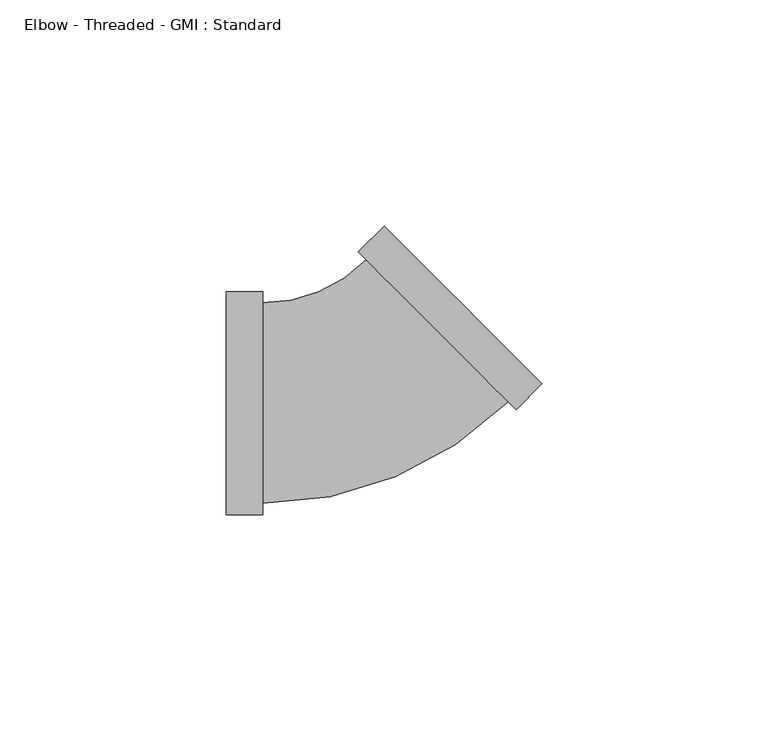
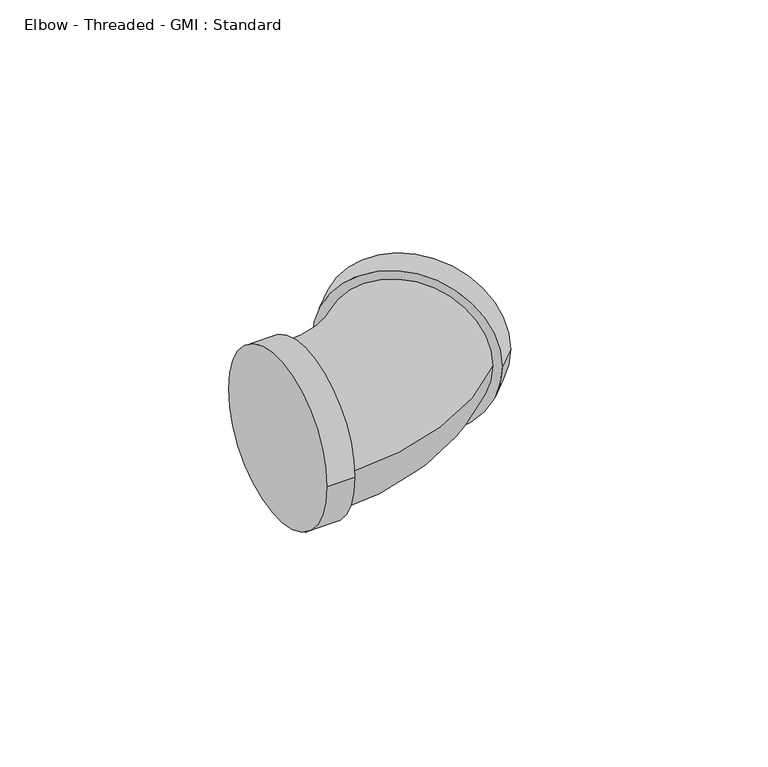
"""IFC4 building model written with IfcOpenShell, lengths in millimetres: pipe fitting geometry, Elbow - Threaded - GMI : Standard."""

import ifcopenshell
import ifcopenshell.guid

model = None  # the IFC model being written
_history = None  # IfcOwnerHistory: only IFC2X3 demands one
_inside = {}  # id of a spatial element -> (the spatial element, [elements in it])
_under = {}  # id of a project, library or spatial element -> (it, [spatial elements below it])
_declared = {}  # id of a project -> (the project, [libraries it declares])
_typed = {}  # id of a type object -> (the type object, [elements of that type])
_made_of = {}  # id of a material, layer set ... -> (it, [elements and type objects made of it])


def new_model(schema):
    """Start an empty IFC model of exactly this schema.

    Asked for "IFC4X3", IfcOpenShell would pick the latest addendum, in which some entities
    have other attributes; the version numbers below select the first issue.
    IFC2X3 requires an IfcOwnerHistory on every rooted entity: one is made here for all.
    """
    global model, _history
    if schema == "IFC4X3":
        model = ifcopenshell.file(schema_version=(4, 3, 0, 0))
    else:
        model = ifcopenshell.file(schema=schema)
    _inside.clear()
    _under.clear()
    _declared.clear()
    _typed.clear()
    _made_of.clear()
    _history = None
    if model.schema == "IFC2X3":
        org = make("IfcOrganization", Name="unknown")
        user = make(
            "IfcPersonAndOrganization",
            ThePerson=make("IfcPerson", FamilyName="unknown"),
            TheOrganization=org,
        )
        app = make(
            "IfcApplication",
            ApplicationDeveloper=org,
            Version="unknown",
            ApplicationFullName="unknown",
            ApplicationIdentifier="unknown",
        )
        _history = make(
            "IfcOwnerHistory",
            OwningUser=user,
            OwningApplication=app,
            ChangeAction="ADDED",
            CreationDate=0,
        )
    return model


def make(cls, **values):
    """One entity of the class cls with the attributes given. An attribute that is None is left unset."""
    return model.create_entity(
        cls, **{name: value for name, value in values.items() if value is not None}
    )


def rooted(cls, **values):
    """An entity with a GlobalId (a new one), such as an element, a storey or a relation."""
    return make(cls, GlobalId=ifcopenshell.guid.new(), OwnerHistory=_history, **values)


def si_unit(unit_type, name, prefix=None):
    """IfcSIUnit, for example si_unit("LENGTHUNIT", "METRE", prefix="MILLI")."""
    return make("IfcSIUnit", UnitType=unit_type, Prefix=prefix, Name=name)


def assignment(units):
    """IfcUnitAssignment: the units of a project."""
    return None if units is None else make("IfcUnitAssignment", Units=units)


def point(xyz):
    """IfcCartesianPoint."""
    return None if xyz is None else make("IfcCartesianPoint", Coordinates=xyz)


def direction(xyz):
    """IfcDirection."""
    return None if xyz is None else make("IfcDirection", DirectionRatios=xyz)


def frame(location, z_axis=None, x_axis=None):
    """IfcAxis2Placement3D, a coordinate frame: its origin and axes. An axis left out is left unset."""
    return make(
        "IfcAxis2Placement3D",
        Location=point(location),
        Axis=direction(z_axis),
        RefDirection=direction(x_axis),
    )


def origin():
    """The frame at (0, 0, 0) with its axes left unset."""
    return frame((0.0, 0.0, 0.0))


def place(relative_to, where):
    """IfcLocalPlacement: puts the frame where relative to a parent placement (None: the world)."""
    return make(
        "IfcLocalPlacement", PlacementRelTo=relative_to, RelativePlacement=where
    )


def context(
    kind, dimensions, precision=None, world=None, true_north=None, identifier=None
):
    """IfcGeometricRepresentationContext, for example the 3D "Model" context."""
    return make(
        "IfcGeometricRepresentationContext",
        ContextIdentifier=identifier,
        ContextType=kind,
        CoordinateSpaceDimension=dimensions,
        Precision=precision,
        WorldCoordinateSystem=world,
        TrueNorth=true_north,
    )


def project(units=None, contexts=None):
    """IfcProject with its units and contexts."""
    return rooted(
        "IfcProject",
        Name="project",
        RepresentationContexts=contexts,
        UnitsInContext=assignment(units),
    )


def spatial(cls, under=None, at=None, **own):
    """A site, building, storey or space (cls), placed at a placement, below another one or the project."""
    s = rooted(cls, ObjectPlacement=at, **own)
    if under is not None:
        _under.setdefault(under.id(), (under, []))[1].append(s)
    return s


def circle_curve(where, radius):
    """IfcCircle in the frame where."""
    return make("IfcCircle", Position=where, Radius=radius)


def ellipse_curve(where, semi_axis1, semi_axis2):
    """IfcEllipse in the frame where."""
    return make(
        "IfcEllipse", Position=where, SemiAxis1=semi_axis1, SemiAxis2=semi_axis2
    )


def trimmed(basis, trim1, trim2, sense, master):
    """IfcTrimmedCurve: the piece of a basis curve between two trims."""
    return make(
        "IfcTrimmedCurve",
        BasisCurve=basis,
        Trim1=trim1,
        Trim2=trim2,
        SenseAgreement=sense,
        MasterRepresentation=master,
    )


def shape(context_of_items, identifier, shape_type, items):
    """IfcShapeRepresentation: the items that make up one representation, for example the "Body"."""
    return make(
        "IfcShapeRepresentation",
        ContextOfItems=context_of_items,
        RepresentationIdentifier=identifier,
        RepresentationType=shape_type,
        Items=items,
    )


def source(mapping_origin, context_of_items, identifier, shape_type, items):
    """IfcRepresentationMap: a shape defined once, which mapped items show again and again."""
    return make(
        "IfcRepresentationMap",
        MappingOrigin=mapping_origin,
        MappedRepresentation=shape(context_of_items, identifier, shape_type, items),
    )


def transform(
    local_origin,
    x_axis=None,
    y_axis=None,
    z_axis=None,
    scale=None,
    scale2=None,
    scale3=None,
    uniform=True,
):
    """IfcCartesianTransformationOperator3D, or its non-uniform kind. x_axis, y_axis, z_axis: its Axis1, 2, 3."""
    if uniform:
        return make(
            "IfcCartesianTransformationOperator3D",
            Axis1=direction(x_axis),
            Axis2=direction(y_axis),
            LocalOrigin=point(local_origin),
            Scale=scale,
            Axis3=direction(z_axis),
        )
    return make(
        "IfcCartesianTransformationOperator3DnonUniform",
        Axis1=direction(x_axis),
        Axis2=direction(y_axis),
        LocalOrigin=point(local_origin),
        Scale=scale,
        Axis3=direction(z_axis),
        Scale2=scale2,
        Scale3=scale3,
    )


def mapped(mapping_source, mapping_target):
    """IfcMappedItem: shows the shape of a source again, moved by a transform."""
    return make(
        "IfcMappedItem", MappingSource=mapping_source, MappingTarget=mapping_target
    )


def made_of(thing, what):
    """Note that an element or type object is made of a material, layer set ...; save() writes the relation."""
    if what is not None:
        _made_of.setdefault(what.id(), (what, []))[1].append(thing)
    return thing


def element(
    cls,
    number,
    at=None,
    inside=None,
    cuts=None,
    type_object=None,
    material=None,
    context=None,
    identifier="Body",
    shape_type=None,
    held_by="IfcProductDefinitionShape",
    body=None,
    shapes=None,
    **own,
):
    """One element of the class cls, such as IfcWall. Its Tag is "e" and its number.

    at: its placement. inside: the storey or other place that contains it. cuts: it is an
    opening in that element (IfcRelVoidsElement). A single representation is given by context,
    identifier, shape_type and body (its items); several are given by shapes. held_by: the class
    of the entity that holds the representations. save() writes the other relations.
    """
    e = rooted(cls, Tag="e%d" % number, ObjectPlacement=at, **own)
    if body is not None:
        shapes = [shape(context, identifier, shape_type, body)]
    if shapes is not None:
        e.Representation = make(held_by, Representations=shapes)
    if inside is not None:
        _inside.setdefault(inside.id(), (inside, []))[1].append(e)
    if cuts is not None:
        rooted(
            "IfcRelVoidsElement", RelatingBuildingElement=cuts, RelatedOpeningElement=e
        )
    if type_object is not None:
        _typed.setdefault(type_object.id(), (type_object, []))[1].append(e)
    return made_of(e, material)


def aggregate(whole, parts):
    """IfcRelAggregates: a whole, such as a stair, and the parts it consists of."""
    return rooted("IfcRelAggregates", RelatingObject=whole, RelatedObjects=parts)


def save(model, path):
    """Write the relations noted so far, then the file.

    IfcRelAggregates (storeys below a building ...), IfcRelContainedInSpatialStructure (elements
    in a storey), IfcRelDefinesByType, IfcRelAssociatesMaterial and IfcRelDeclares: one each for
    every whole, place, type object, material and project.
    """
    for whole, parts in _under.values():
        aggregate(whole, parts)
    for where, things in _inside.values():
        rooted(
            "IfcRelContainedInSpatialStructure",
            RelatedElements=things,
            RelatingStructure=where,
        )
    for kind, things in _typed.values():
        rooted("IfcRelDefinesByType", RelatedObjects=things, RelatingType=kind)
    for what, things in _made_of.values():
        rooted("IfcRelAssociatesMaterial", RelatedObjects=things, RelatingMaterial=what)
    for by, libraries in _declared.values():
        rooted("IfcRelDeclares", RelatingContext=by, RelatedDefinitions=libraries)
    model.write(path)


def plane_surface(at):
    """IfcPlane: the flat surface through the origin of the frame at, square to its z axis."""
    return make("IfcPlane", Position=at)


def cylinder_surface(at, radius):
    """IfcCylindricalSurface: all points at the distance radius from the z axis of the frame at."""
    return make("IfcCylindricalSurface", Position=at, Radius=radius)


def revolved_surface(curve, axis_point, axis_direction):
    """IfcSurfaceOfRevolution: the curve turned about the line through axis_point along axis_direction."""
    return make(
        "IfcSurfaceOfRevolution",
        SweptCurve=make("IfcArbitraryOpenProfileDef", ProfileType="CURVE", Curve=curve),
        AxisPosition=make("IfcAxis1Placement", Location=point(axis_point), Axis=direction(axis_direction)),
    )


def advanced_brep(points, edges, surfaces, faces):
    """IfcAdvancedBrep: a solid bounded by faces that lie on surfaces and meet in shared edges.

    An edge is (start, end): straight between two places in points (the first is 0);
    or (start, end, curve); or (start, end, curve, False) where it runs against its curve.
    A face is (place in surfaces, loops), or (place, loops, False) where it looks against
    its surface's normal. A loop lists edges by number (the first is 1), with a minus sign
    where the edge is run from its end to its start. The first loop is the outer one.
    """
    corners = [point(p) for p in points]
    vertices = [make("IfcVertexPoint", VertexGeometry=c) for c in corners]
    made = []
    for start, end, *more in edges:
        made.append(
            make(
                "IfcEdgeCurve",
                EdgeStart=vertices[start],
                EdgeEnd=vertices[end],
                EdgeGeometry=more[0] if more else make("IfcPolyline", Points=[corners[start], corners[end]]),
                SameSense=more[1] if len(more) > 1 else True,
            )
        )
    hull = []
    for where, loops, *sense in faces:
        bounds = []
        for j, loop in enumerate(loops):
            ring = [make("IfcOrientedEdge", EdgeElement=made[abs(k) - 1], Orientation=k > 0) for k in loop]
            bounds.append(
                make(
                    "IfcFaceOuterBound" if j == 0 else "IfcFaceBound",
                    Bound=make("IfcEdgeLoop", EdgeList=ring),
                    Orientation=True,
                )
            )
        hull.append(make("IfcAdvancedFace", Bounds=bounds, FaceSurface=surfaces[where], SameSense=sense[0] if sense else True))
    return make("IfcAdvancedBrep", Outer=make("IfcClosedShell", CfsFaces=hull))


def elbow_threaded_gmi_standard_35f42b74(model_context):
    return source(origin(), model_context, "Body", "AdvancedBrep", [
        advanced_brep(
        [(-30.6765625, -24.6511719, 0.0), (-30.6765625, 24.6511719, 0.0), (-22.6117187, -24.6511719, 0.0), (-22.6117187, 24.6511719, 0.0), (-22.6117187, -22.1625, 0.0), (-22.6117187, 22.1625, 0.0), (33.4199105, -1.4421111, 0.0), (-1.4421111, 33.4199105, 0.0), (0.3176456, 31.6601537, 0.0), (31.6601537, 0.3176456, 0.0), (39.1226162, 4.2605946, 0.0), (4.2605946, 39.1226162, 0.0)],
        [
            (0, 1, circle_curve(frame((-30.6765625, 0.0, 0.0), z_axis=(-1.0, 0.0, 0.0), x_axis=(0.0, 1.0, 0.0)), 24.6511719)),
            (1, 0, circle_curve(frame((-30.6765625, 0.0, 0.0), z_axis=(-1.0, 0.0, 0.0), x_axis=(0.0, 1.0, 0.0)), 24.6511719)),
            (2, 3, circle_curve(frame((-22.6117187, 0.0, 0.0), z_axis=(1.0, 0.0, 0.0), x_axis=(0.0, 1.0, 0.0)), 24.6511719)),
            (3, 2, circle_curve(frame((-22.6117187, 0.0, 0.0), z_axis=(1.0, 0.0, 0.0), x_axis=(0.0, 1.0, 0.0)), 24.6511719)),
            (4, 5, circle_curve(frame((-22.6117187, 0.0, 0.0), z_axis=(-1.0, 0.0, 0.0), x_axis=(0.0, 1.0, 0.0)), 22.1625)),
            (5, 4, circle_curve(frame((-22.6117187, 0.0, 0.0), z_axis=(-1.0, 0.0, 0.0), x_axis=(0.0, 1.0, 0.0)), 22.1625)),
            (0, 2),
            (3, 1),
            (6, 7, circle_curve(frame((15.9888997, 15.9888997, 0.0), z_axis=(-0.7071067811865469, -0.7071067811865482, 0.0), x_axis=(-0.7071067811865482, 0.7071067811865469, 0.0)), 24.6511719)),
            (7, 6, circle_curve(frame((15.9888997, 15.9888997, 0.0), z_axis=(-0.7071067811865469, -0.7071067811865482, 0.0), x_axis=(-0.7071067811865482, 0.7071067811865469, 0.0)), 24.6511719)),
            (8, 9, circle_curve(frame((15.9888997, 15.9888997, 0.0), z_axis=(0.7071067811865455, 0.7071067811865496, 0.0), x_axis=(-0.7071067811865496, 0.7071067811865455, 0.0)), 22.1625)),
            (9, 8, circle_curve(frame((15.9888997, 15.9888997, 0.0), z_axis=(0.7071067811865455, 0.7071067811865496, 0.0), x_axis=(-0.7071067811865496, 0.7071067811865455, 0.0)), 22.1625)),
            (10, 11, circle_curve(frame((21.6916054, 21.6916054, 0.0), z_axis=(0.7071067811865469, 0.7071067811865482, 0.0), x_axis=(-0.7071067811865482, 0.7071067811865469, 0.0)), 24.6511719)),
            (11, 10, circle_curve(frame((21.6916054, 21.6916054, 0.0), z_axis=(0.7071067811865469, 0.7071067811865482, 0.0), x_axis=(-0.7071067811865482, 0.7071067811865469, 0.0)), 24.6511719)),
            (6, 10),
            (11, 7),
            (8, 5, circle_curve(frame((-22.6117187, 54.5895181, 0.0), z_axis=(0.0, 0.0, -1.0), x_axis=(0.0, -1.0, 0.0)), 32.4270181)),
            (4, 9, circle_curve(frame((-22.6117187, 54.5895181, 0.0), z_axis=(0.0, 0.0, 1.0), x_axis=(0.0, -1.0, 0.0)), 76.7520181)),
        ],
        [
            plane_surface(frame((-30.6765625, 0.0, 0.0), z_axis=(-1.0, 0.0, 0.0), x_axis=(0.0, 0.0, 1.0))),
            plane_surface(frame((-22.6117187, 0.0, 0.0), z_axis=(1.0, 0.0, 0.0), x_axis=(0.0, 0.0, 1.0))),
            cylinder_surface(frame((-30.6765625, 0.0, 0.0), z_axis=(-1.0, 0.0, 0.0), x_axis=(0.0, 1.0, 0.0)), 24.6511719),
            plane_surface(frame((15.9888997, 15.9888997, 0.0), z_axis=(-0.7071067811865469, -0.7071067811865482, 0.0), x_axis=(0.0, 0.0, 1.0))),
            plane_surface(frame((21.6916054, 21.6916054, 0.0), z_axis=(0.7071067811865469, 0.7071067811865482, 0.0), x_axis=(0.0, 0.0, 1.0))),
            cylinder_surface(frame((15.9888997, 15.9888997, 0.0), z_axis=(-0.7071067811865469, -0.7071067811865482, 0.0), x_axis=(-0.7071067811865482, 0.7071067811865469, 0.0)), 24.6511719),
            revolved_surface(trimmed(ellipse_curve(frame((-22.6117187, 0.0, 0.0), z_axis=(-1.0, 0.0, 0.0), x_axis=(0.0, 1.0, 0.0)), 22.1625, 22.1625), [point((-22.6117187, -22.1625, 0.0))], [point((-22.6117187, 22.1625, 0.0))], True, "CARTESIAN"), (-22.6117187, 54.5895181, 0.0), (0.0, 0.0, 1.0)),
            revolved_surface(trimmed(ellipse_curve(frame((-22.6117187, 0.0, 0.0), z_axis=(-1.0, 0.0, 0.0), x_axis=(0.0, 1.0, 0.0)), 22.1625, 22.1625), [point((-22.6117187, 22.1625, 0.0))], [point((-22.6117187, -22.1625, 0.0))], True, "CARTESIAN"), (-22.6117187, 54.5895181, 0.0), (0.0, 0.0, 1.0)),
        ],
        [
            (0, [[1, 2]]),
            (1, [[3, 4], [5, 6]]),
            (2, [[-1, 7, -4, 8]]),
            (2, [[-2, -8, -3, -7]]),
            (3, [[9, 10], [11, 12]]),
            (4, [[13, 14]]),
            (5, [[-9, 15, -14, 16]]),
            (5, [[-10, -16, -13, -15]]),
            (6, [[17, -5, 18, -11]]),
            (7, [[-17, -12, -18, -6]]),
        ],
    ),
    ])


if __name__ == "__main__":
    model = new_model("IFC4")
    model_context = context("Model", 3, world=origin())
    ifc_project = project(units=[si_unit("LENGTHUNIT", "METRE", prefix="MILLI")], contexts=[model_context])
    site = spatial("IfcSite", under=ifc_project)
    building = spatial("IfcBuilding", under=site)
    placement = place(None, origin())
    elbow_threaded_gmi_standard_shape = elbow_threaded_gmi_standard_35f42b74(model_context)
    element("IfcPipeFitting", 1, ObjectType="Elbow - Threaded - GMI : Standard", at=placement, inside=building, context=model_context, shape_type="MappedRepresentation", body=[
        mapped(elbow_threaded_gmi_standard_shape, transform((0.0, 0.0, 0.0), x_axis=(1.0, 0.0, 0.0), y_axis=(0.0, 1.0, 0.0), z_axis=(0.0, 0.0, 1.0))),
    ])
    save(model, "model.ifc")
